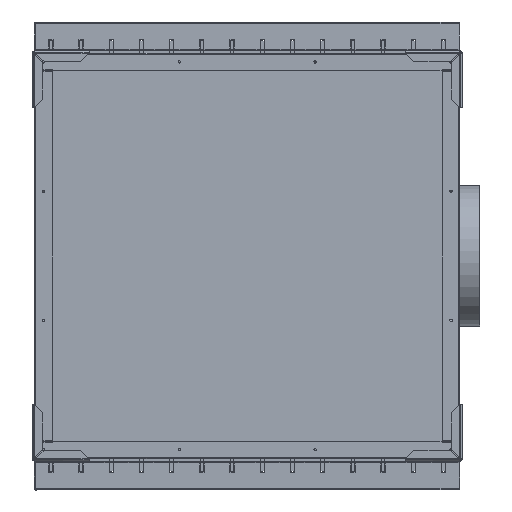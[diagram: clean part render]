
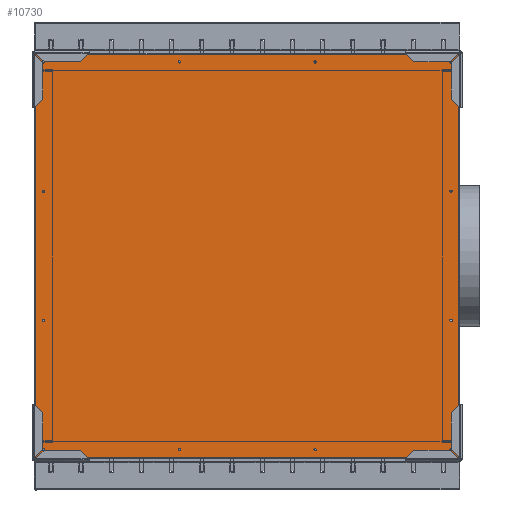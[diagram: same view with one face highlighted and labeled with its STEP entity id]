
A CAD part, front view. The second image highlights one B-rep face of the part: STEP entity #10730.
In plain terms, the highlighted planar face has unit normal (0, -1, 0).
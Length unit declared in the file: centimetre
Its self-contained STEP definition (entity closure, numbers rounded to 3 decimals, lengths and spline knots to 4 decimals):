
#1175=VECTOR('',#13388,1.);
#1179=VECTOR('',#13393,1.);
#1182=VECTOR('',#13397,1.);
#1184=VECTOR('',#13400,1.);
#2161=LINE('',#16160,#1175);
#2165=LINE('',#16168,#1179);
#2168=LINE('',#16174,#1182);
#2170=LINE('',#16177,#1184);
#2817=PLANE('',#11537);
#3517=VERTEX_POINT('',#16098);
#3519=VERTEX_POINT('',#16103);
#3521=VERTEX_POINT('',#16108);
#3523=VERTEX_POINT('',#16113);
#3525=VERTEX_POINT('',#16118);
#3527=VERTEX_POINT('',#16123);
#3529=VERTEX_POINT('',#16128);
#3531=VERTEX_POINT('',#16133);
#3533=VERTEX_POINT('',#16138);
#3535=VERTEX_POINT('',#16143);
#3537=VERTEX_POINT('',#16148);
#3539=VERTEX_POINT('',#16153);
#3542=VERTEX_POINT('',#16159);
#3543=VERTEX_POINT('',#16161);
#3545=VERTEX_POINT('',#16167);
#3547=VERTEX_POINT('',#16173);
#4093=CIRCLE('',#11498,0.165);
#4095=CIRCLE('',#11501,0.165);
#4097=CIRCLE('',#11504,0.165);
#4099=CIRCLE('',#11507,0.165);
#4101=CIRCLE('',#11510,0.165);
#4103=CIRCLE('',#11513,0.165);
#4105=CIRCLE('',#11516,0.165);
#4107=CIRCLE('',#11519,0.165);
#4109=CIRCLE('',#11522,0.165);
#4111=CIRCLE('',#11525,0.165);
#4113=CIRCLE('',#11528,0.165);
#4115=CIRCLE('',#11531,0.165);
#5027=EDGE_CURVE('',#3517,#3517,#4093,.T.);
#5029=EDGE_CURVE('',#3519,#3519,#4095,.T.);
#5031=EDGE_CURVE('',#3521,#3521,#4097,.T.);
#5033=EDGE_CURVE('',#3523,#3523,#4099,.T.);
#5035=EDGE_CURVE('',#3525,#3525,#4101,.T.);
#5037=EDGE_CURVE('',#3527,#3527,#4103,.T.);
#5039=EDGE_CURVE('',#3529,#3529,#4105,.T.);
#5041=EDGE_CURVE('',#3531,#3531,#4107,.T.);
#5043=EDGE_CURVE('',#3533,#3533,#4109,.T.);
#5045=EDGE_CURVE('',#3535,#3535,#4111,.T.);
#5047=EDGE_CURVE('',#3537,#3537,#4113,.T.);
#5049=EDGE_CURVE('',#3539,#3539,#4115,.T.);
#5052=EDGE_CURVE('',#3542,#3543,#2161,.T.);
#5056=EDGE_CURVE('',#3545,#3542,#2165,.T.);
#5059=EDGE_CURVE('',#3547,#3545,#2168,.T.);
#5061=EDGE_CURVE('',#3543,#3547,#2170,.T.);
#7436=ORIENTED_EDGE('',*,*,#5027,.T.);
#7437=ORIENTED_EDGE('',*,*,#5029,.T.);
#7438=ORIENTED_EDGE('',*,*,#5031,.T.);
#7439=ORIENTED_EDGE('',*,*,#5033,.T.);
#7440=ORIENTED_EDGE('',*,*,#5035,.T.);
#7441=ORIENTED_EDGE('',*,*,#5037,.T.);
#7442=ORIENTED_EDGE('',*,*,#5039,.T.);
#7443=ORIENTED_EDGE('',*,*,#5041,.T.);
#7444=ORIENTED_EDGE('',*,*,#5043,.T.);
#7445=ORIENTED_EDGE('',*,*,#5045,.T.);
#7446=ORIENTED_EDGE('',*,*,#5047,.T.);
#7447=ORIENTED_EDGE('',*,*,#5049,.T.);
#7448=ORIENTED_EDGE('',*,*,#5061,.F.);
#7449=ORIENTED_EDGE('',*,*,#5052,.F.);
#7450=ORIENTED_EDGE('',*,*,#5056,.F.);
#7451=ORIENTED_EDGE('',*,*,#5059,.F.);
#9285=EDGE_LOOP('',(#7436));
#9286=EDGE_LOOP('',(#7437));
#9287=EDGE_LOOP('',(#7438));
#9288=EDGE_LOOP('',(#7439));
#9289=EDGE_LOOP('',(#7440));
#9290=EDGE_LOOP('',(#7441));
#9291=EDGE_LOOP('',(#7442));
#9292=EDGE_LOOP('',(#7443));
#9293=EDGE_LOOP('',(#7444));
#9294=EDGE_LOOP('',(#7445));
#9295=EDGE_LOOP('',(#7446));
#9296=EDGE_LOOP('',(#7447));
#9297=EDGE_LOOP('',(#7448,#7449,#7450,#7451));
#10115=FACE_BOUND('',#9285,.T.);
#10116=FACE_BOUND('',#9286,.T.);
#10117=FACE_BOUND('',#9287,.T.);
#10118=FACE_BOUND('',#9288,.T.);
#10119=FACE_BOUND('',#9289,.T.);
#10120=FACE_BOUND('',#9290,.T.);
#10121=FACE_BOUND('',#9291,.T.);
#10122=FACE_BOUND('',#9292,.T.);
#10123=FACE_BOUND('',#9293,.T.);
#10124=FACE_BOUND('',#9294,.T.);
#10125=FACE_BOUND('',#9295,.T.);
#10126=FACE_BOUND('',#9296,.T.);
#10127=FACE_BOUND('',#9297,.T.);
#10730=ADVANCED_FACE('',(#10115,#10116,#10117,#10118,#10119,#10120,#10121,
#10122,#10123,#10124,#10125,#10126,#10127),#2817,.F.);
#11498=AXIS2_PLACEMENT_3D('',#16097,#13317,#13318);
#11501=AXIS2_PLACEMENT_3D('',#16102,#13323,#13324);
#11504=AXIS2_PLACEMENT_3D('',#16107,#13329,#13330);
#11507=AXIS2_PLACEMENT_3D('',#16112,#13335,#13336);
#11510=AXIS2_PLACEMENT_3D('',#16117,#13341,#13342);
#11513=AXIS2_PLACEMENT_3D('',#16122,#13347,#13348);
#11516=AXIS2_PLACEMENT_3D('',#16127,#13353,#13354);
#11519=AXIS2_PLACEMENT_3D('',#16132,#13359,#13360);
#11522=AXIS2_PLACEMENT_3D('',#16137,#13365,#13366);
#11525=AXIS2_PLACEMENT_3D('',#16142,#13371,#13372);
#11528=AXIS2_PLACEMENT_3D('',#16147,#13377,#13378);
#11531=AXIS2_PLACEMENT_3D('',#16152,#13383,#13384);
#11537=AXIS2_PLACEMENT_3D('',#16179,#13402,$);
#13317=DIRECTION('',(0.,1.,0.));
#13318=DIRECTION('',(0.165,0.,0.));
#13323=DIRECTION('',(0.,1.,0.));
#13324=DIRECTION('',(0.165,0.,0.));
#13329=DIRECTION('',(0.,1.,0.));
#13330=DIRECTION('',(0.165,0.,0.));
#13335=DIRECTION('',(0.,1.,0.));
#13336=DIRECTION('',(0.165,0.,0.));
#13341=DIRECTION('',(0.,1.,0.));
#13342=DIRECTION('',(0.165,0.,0.));
#13347=DIRECTION('',(0.,1.,0.));
#13348=DIRECTION('',(0.165,0.,0.));
#13353=DIRECTION('',(0.,1.,0.));
#13354=DIRECTION('',(0.165,0.,0.));
#13359=DIRECTION('',(0.,1.,0.));
#13360=DIRECTION('',(0.165,0.,0.));
#13365=DIRECTION('',(0.,1.,0.));
#13366=DIRECTION('',(0.165,0.,0.));
#13371=DIRECTION('',(0.,1.,0.));
#13372=DIRECTION('',(0.165,0.,0.));
#13377=DIRECTION('',(0.,1.,0.));
#13378=DIRECTION('',(0.165,0.,0.));
#13383=DIRECTION('',(0.,1.,0.));
#13384=DIRECTION('',(0.165,0.,0.));
#13388=DIRECTION('',(-1.,0.,0.));
#13393=DIRECTION('',(0.,0.,-1.));
#13397=DIRECTION('',(1.,0.,0.));
#13400=DIRECTION('',(0.,0.,1.));
#13402=DIRECTION('',(0.,1.,0.));
#16097=CARTESIAN_POINT('',(58.55,0.,1.05));
#16098=CARTESIAN_POINT('',(58.715,0.,1.05));
#16102=CARTESIAN_POINT('',(39.3833,0.,1.05));
#16103=CARTESIAN_POINT('',(39.5483,0.,1.05));
#16107=CARTESIAN_POINT('',(20.2167,0.,55.75));
#16108=CARTESIAN_POINT('',(20.3817,0.,55.75));
#16112=CARTESIAN_POINT('',(58.55,0.,37.5167));
#16113=CARTESIAN_POINT('',(58.715,0.,37.5167));
#16117=CARTESIAN_POINT('',(1.05,0.,37.5167));
#16118=CARTESIAN_POINT('',(1.215,0.,37.5167));
#16122=CARTESIAN_POINT('',(1.05,0.,19.2833));
#16123=CARTESIAN_POINT('',(1.215,0.,19.2833));
#16127=CARTESIAN_POINT('',(58.55,0.,19.2833));
#16128=CARTESIAN_POINT('',(58.715,0.,19.2833));
#16132=CARTESIAN_POINT('',(39.3833,0.,55.75));
#16133=CARTESIAN_POINT('',(39.5483,0.,55.75));
#16137=CARTESIAN_POINT('',(20.2167,0.,1.05));
#16138=CARTESIAN_POINT('',(20.3817,0.,1.05));
#16142=CARTESIAN_POINT('',(58.55,0.,55.75));
#16143=CARTESIAN_POINT('',(58.715,0.,55.75));
#16147=CARTESIAN_POINT('',(1.05,0.,1.05));
#16148=CARTESIAN_POINT('',(1.215,0.,1.05));
#16152=CARTESIAN_POINT('',(1.05,0.,55.75));
#16153=CARTESIAN_POINT('',(1.215,0.,55.75));
#16159=CARTESIAN_POINT('',(59.6,0.,0.));
#16160=CARTESIAN_POINT('',(59.6,0.,0.));
#16161=CARTESIAN_POINT('',(0.,0.,0.));
#16167=CARTESIAN_POINT('',(59.6,0.,56.8));
#16168=CARTESIAN_POINT('',(59.6,0.,56.8));
#16173=CARTESIAN_POINT('',(0.,0.,56.8));
#16174=CARTESIAN_POINT('',(0.,0.,56.8));
#16177=CARTESIAN_POINT('',(0.,0.,0.));
#16179=CARTESIAN_POINT('',(29.8,0.,28.4));
